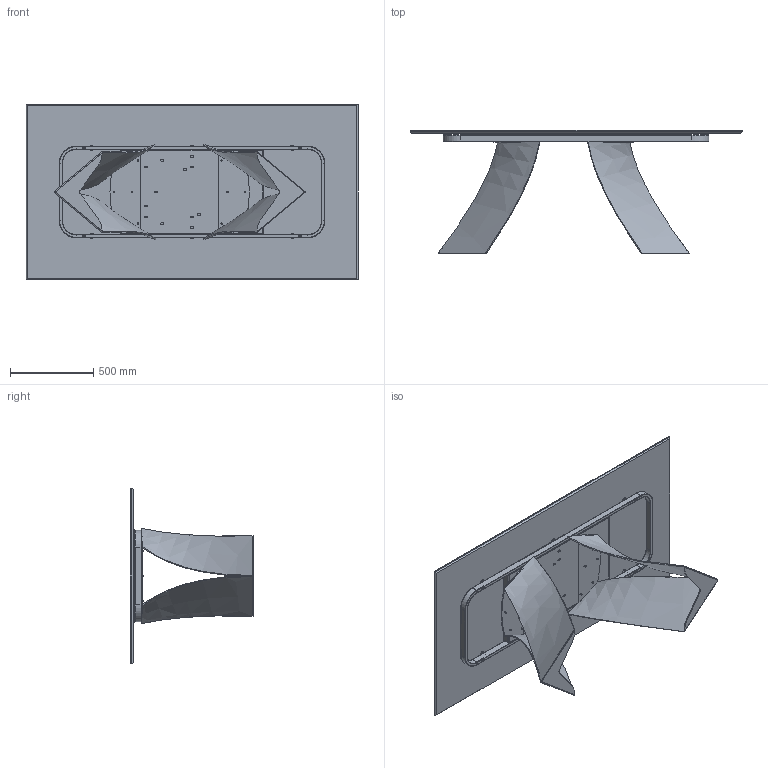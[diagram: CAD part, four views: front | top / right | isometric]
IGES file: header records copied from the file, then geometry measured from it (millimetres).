
Start section: SolidWorks IGES file using analytic representation for surfaces
Global section: file name: Y:\eforma\TECNICO\SOLIDWORKS\E-FORMA\1-TAVOLI\TWIST\02 parts\TW21C.IGS; native system: SolidWorks 2022; preprocessor: SolidWorks 2022; author: eforma.tech; date: 240807.144234; units: millimetre
Bounding box: 2000 x 741.37 x 1060 mm (x, y, z)
Volume: 44140330.5 mm3; surface area: 12960892.9 mm2
Topology: 57 solids, 57 shells, 1122 faces, 2618 edges, 1598 vertices
Faces by surface type: revolution 618, plane 438, bspline 66
